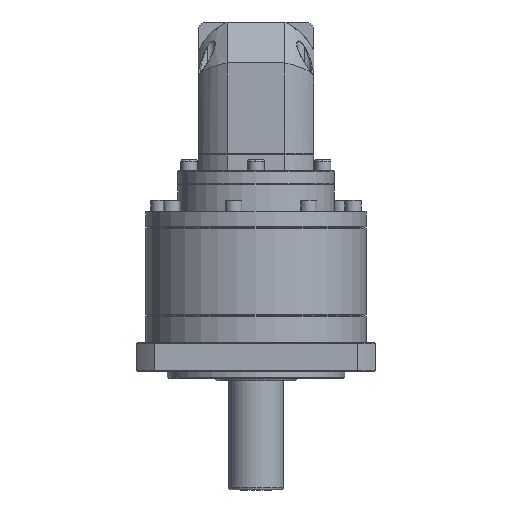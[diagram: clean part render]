
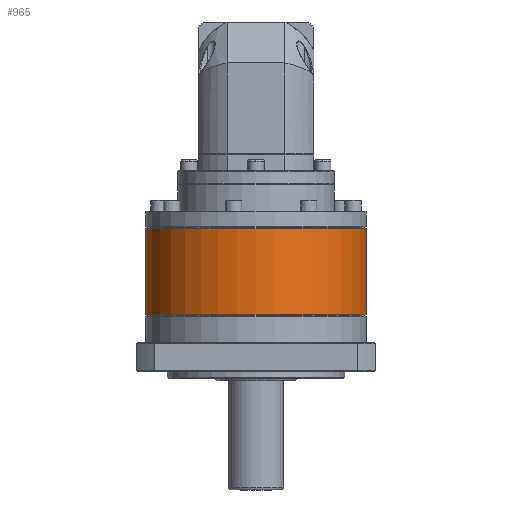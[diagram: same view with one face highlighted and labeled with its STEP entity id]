
A CAD part, front view. The second image highlights one B-rep face of the part: STEP entity #965.
In plain terms, the highlighted cylindrical face has radius 81 mm (diameter 162 mm), a partial arc.
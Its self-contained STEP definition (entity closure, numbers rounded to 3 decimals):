
#965 = ADVANCED_FACE ( 'NONE', ( #16789 ), #147069, .T. ) ;
#1309 = VECTOR ( 'NONE', #99832, 1000. ) ;
#5805 = CIRCLE ( 'NONE', #39201, 81. ) ;
#6980 = VECTOR ( 'NONE', #23446, 1000. ) ;
#7738 = CARTESIAN_POINT ( 'NONE',  ( -64.994, 97.065, -131.766 ) ) ;
#10470 = VERTEX_POINT ( 'NONE', #34128 ) ;
#12017 = DIRECTION ( 'NONE',  ( -1., 0., 0. ) ) ;
#16789 = FACE_OUTER_BOUND ( 'NONE', #106981, .T. ) ;
#17438 = VERTEX_POINT ( 'NONE', #121188 ) ;
#21029 = DIRECTION ( 'NONE',  ( 0., 0., -1. ) ) ;
#22597 = VERTEX_POINT ( 'NONE', #102019 ) ;
#22944 = CARTESIAN_POINT ( 'NONE',  ( -226.994, 97.065, -131.766 ) ) ;
#23446 = DIRECTION ( 'NONE',  ( 0., 0., -1. ) ) ;
#25839 = EDGE_CURVE ( 'NONE', #55821, #10470, #117033, .T. ) ;
#34128 = CARTESIAN_POINT ( 'NONE',  ( -226.994, 97.065, -132.266 ) ) ;
#39201 = AXIS2_PLACEMENT_3D ( 'NONE', #47045, #91500, #12017 ) ;
#47045 = CARTESIAN_POINT ( 'NONE',  ( -145.994, 97.065, -195.766 ) ) ;
#52910 = EDGE_CURVE ( 'NONE', #10470, #22597, #104730, .T. ) ;
#55758 = DIRECTION ( 'NONE',  ( -1., 0., 0. ) ) ;
#55821 = VERTEX_POINT ( 'NONE', #63009 ) ;
#57754 = ORIENTED_EDGE ( 'NONE', *, *, #25839, .T. ) ;
#63009 = CARTESIAN_POINT ( 'NONE',  ( -64.994, 97.065, -132.266 ) ) ;
#70045 = ORIENTED_EDGE ( 'NONE', *, *, #52910, .T. ) ;
#89179 = DIRECTION ( 'NONE',  ( 0., 0., -1. ) ) ;
#90380 = CARTESIAN_POINT ( 'NONE',  ( -145.994, 97.065, -132.266 ) ) ;
#91500 = DIRECTION ( 'NONE',  ( 0., 0., 1. ) ) ;
#99832 = DIRECTION ( 'NONE',  ( 0., 0., -1. ) ) ;
#99877 = AXIS2_PLACEMENT_3D ( 'NONE', #90380, #21029, #101970 ) ;
#101970 = DIRECTION ( 'NONE',  ( -1., 0., 0. ) ) ;
#102019 = CARTESIAN_POINT ( 'NONE',  ( -226.994, 97.065, -195.766 ) ) ;
#102615 = LINE ( 'NONE', #7738, #1309 ) ;
#104730 = LINE ( 'NONE', #22944, #6980 ) ;
#105517 = EDGE_CURVE ( 'NONE', #55821, #17438, #102615, .T. ) ;
#106981 = EDGE_LOOP ( 'NONE', ( #134172, #57754, #70045, #140064 ) ) ;
#117033 = CIRCLE ( 'NONE', #99877, 81. ) ;
#121188 = CARTESIAN_POINT ( 'NONE',  ( -64.994, 97.065, -195.766 ) ) ;
#134172 = ORIENTED_EDGE ( 'NONE', *, *, #105517, .F. ) ;
#135323 = AXIS2_PLACEMENT_3D ( 'NONE', #146885, #89179, #55758 ) ;
#137522 = EDGE_CURVE ( 'NONE', #22597, #17438, #5805, .T. ) ;
#140064 = ORIENTED_EDGE ( 'NONE', *, *, #137522, .T. ) ;
#146885 = CARTESIAN_POINT ( 'NONE',  ( -145.994, 97.065, -131.766 ) ) ;
#147069 = CYLINDRICAL_SURFACE ( 'NONE', #135323, 81. ) ;
